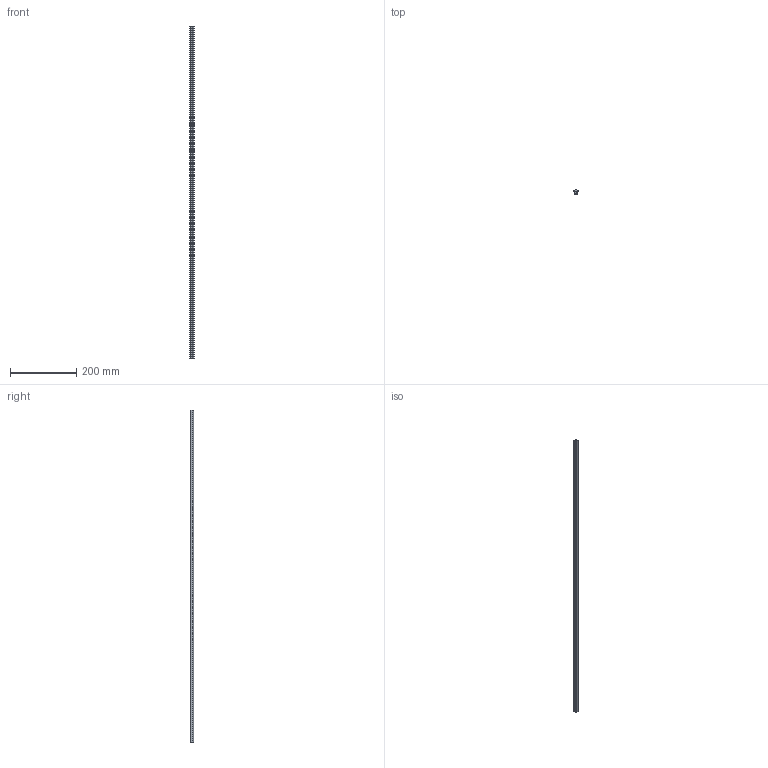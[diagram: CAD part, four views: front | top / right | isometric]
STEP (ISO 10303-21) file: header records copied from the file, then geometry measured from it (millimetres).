
FILE_DESCRIPTION (( 'STEP AP214' ), '1' );
FILE_NAME ('SF05000.step', '2024-12-03T16:29:43', ( '' ), ( '' ), 'SwSTEP 2.0', 'SolidWorks 2023', '' );
FILE_SCHEMA (( 'AUTOMOTIVE_DESIGN' ));
Length unit declared in the file: millimetre
Products named in the file (1): SF05000
Bounding box: 12.17 x 10.48 x 1000 mm (x, y, z)
Volume: 68809.3 mm3; surface area: 59845.3 mm2
Topology: 1 solids, 1 shells, 34 faces, 96 edges, 64 vertices
Faces by surface type: plane 20, cylinder 14
Entity records: 1135 total; most frequent: CARTESIAN_POINT 195, DIRECTION 194, ORIENTED_EDGE 192, EDGE_CURVE 96, VECTOR 68, LINE 68, VERTEX_POINT 64, AXIS2_PLACEMENT_3D 63
